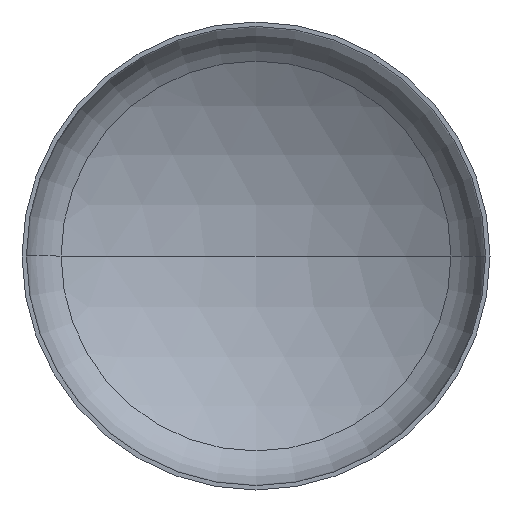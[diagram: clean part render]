
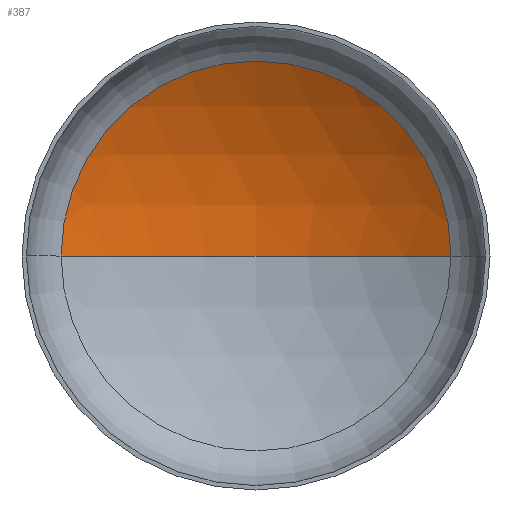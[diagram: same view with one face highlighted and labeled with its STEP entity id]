
A CAD part, front view. The second image highlights one B-rep face of the part: STEP entity #387.
In plain terms, the highlighted spherical face has radius 2720 mm.
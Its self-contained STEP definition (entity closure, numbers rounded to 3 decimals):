
#1 = AXIS2_PLACEMENT_3D ( 'NONE', #220, #210, #396 ) ;
#33 = AXIS2_PLACEMENT_3D ( 'NONE', #271, #359, #300 ) ;
#40 = AXIS2_PLACEMENT_3D ( 'NONE', #188, #179, #242 ) ;
#42 = AXIS2_PLACEMENT_3D ( 'NONE', #339, #360, #358 ) ;
#46 = CIRCLE ( 'NONE', #40, 2720. ) ;
#47 = VERTEX_POINT ( 'NONE', #171 ) ;
#66 = ORIENTED_EDGE ( 'NONE', *, *, #161, .T. ) ;
#107 = VERTEX_POINT ( 'NONE', #168 ) ;
#110 = VERTEX_POINT ( 'NONE', #292 ) ;
#114 = ORIENTED_EDGE ( 'NONE', *, *, #177, .T. ) ;
#129 = ORIENTED_EDGE ( 'NONE', *, *, #184, .F. ) ;
#161 = EDGE_CURVE ( 'NONE', #47, #107, #370, .T. ) ;
#168 = CARTESIAN_POINT ( 'NONE',  ( -1416.383, 548.204, 0. ) ) ;
#170 = EDGE_LOOP ( 'NONE', ( #129, #114, #66 ) ) ;
#171 = CARTESIAN_POINT ( 'NONE',  ( 1416.383, 548.204, 0. ) ) ;
#177 = EDGE_CURVE ( 'NONE', #110, #47, #46, .T. ) ;
#179 = DIRECTION ( 'NONE',  ( 0., 0., -1. ) ) ;
#184 = EDGE_CURVE ( 'NONE', #110, #107, #364, .T. ) ;
#188 = CARTESIAN_POINT ( 'NONE',  ( 0., -1773.92, 0. ) ) ;
#205 = FACE_OUTER_BOUND ( 'NONE', #170, .T. ) ;
#210 = DIRECTION ( 'NONE',  ( 0., 0., -1. ) ) ;
#220 = CARTESIAN_POINT ( 'NONE',  ( 0., -1773.92, 0. ) ) ;
#242 = DIRECTION ( 'NONE',  ( -1., 0., 0. ) ) ;
#261 = SPHERICAL_SURFACE ( 'NONE', #1, 2720. ) ;
#271 = CARTESIAN_POINT ( 'NONE',  ( 0., -1773.92, 0. ) ) ;
#292 = CARTESIAN_POINT ( 'NONE',  ( 0., 946.08, 0. ) ) ;
#300 = DIRECTION ( 'NONE',  ( 1., 0., 0. ) ) ;
#339 = CARTESIAN_POINT ( 'NONE',  ( 0., 548.204, 0. ) ) ;
#358 = DIRECTION ( 'NONE',  ( 1., 0., 0. ) ) ;
#359 = DIRECTION ( 'NONE',  ( 0., 0., 1. ) ) ;
#360 = DIRECTION ( 'NONE',  ( 0., -1., 0. ) ) ;
#364 = CIRCLE ( 'NONE', #33, 2720. ) ;
#370 = CIRCLE ( 'NONE', #42, 1416.383 ) ;
#387 = ADVANCED_FACE ( 'NONE', ( #205 ), #261, .F. ) ;
#396 = DIRECTION ( 'NONE',  ( -1., 0., 0. ) ) ;
